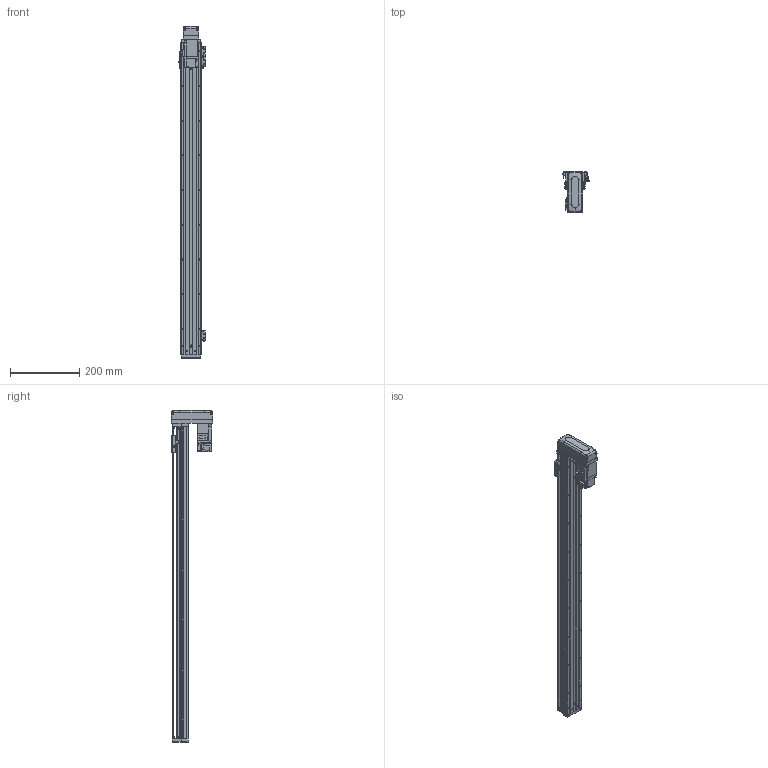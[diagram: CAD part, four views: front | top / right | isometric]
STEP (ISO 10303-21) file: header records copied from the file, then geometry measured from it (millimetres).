
FILE_DESCRIPTION (( 'STEP AP203' ), '1' );
FILE_NAME ('KTHA50-800-BM-M10-C4L.step', '2022-03-19T07:12:53', ( '微软用户' ), ( '微软中国' ), 'SwSTEP 2.0', 'SolidWorks 2020', '' );
FILE_SCHEMA (( 'CONFIG_CONTROL_DESIGN' ));
Length unit declared in the file: millimetre
Products named in the file (18): GBT 70.3-M3℅6; KTHA50-004; GBT77-2000 M3×3; HG-KR13（三菱）; KTHA50-005; GBT 70.1-M3℅6; CTHA50-015-2_CTHA60-015-2; GB¨uT 70.2-M3¡Á6_M3¡Á6; CTHA60-017; CTHA60-033; EE_SX911P_R; GBT 70.1-M4×12; GBT 70.1-M3×15; CTHA60-016; KTHA50-001_900; KTHA50-800-BM-M10-C4L; CTHA60-021; KTHA50-002
Assembly tree (53 placements, depth 2):
  KTHA50-800-BM-M10-C4L
    KTHA50-001_900
    KTHA50-002
    KTHA50-004
    KTHA50-005
    GB¨uT 70.2-M3¡Á6_M3¡Á6  x6
    EE_SX911P_R  x3
    GBT77-2000 M3×3  x6
    GBT 70.1-M3℅6  x6
    CTHA60-017  x3
    GBT 70.1-M4×12  x10
    CTHA60-016  x2
    CTHA60-021  x2
    GBT 70.3-M3℅6  x4
    HG-KR13（三菱）
    CTHA50-015-2_CTHA60-015-2
    CTHA60-033
    GBT 70.1-M3×15  x4
Bounding box: 75.22 x 120 x 957 mm (x, y, z)
Volume: 1816490.6 mm3; surface area: 443920.2 mm2
Topology: 56 solids, 56 shells, 2343 faces, 5575 edges, 3424 vertices
Faces by surface type: plane 1312, cylinder 574, cone 315, torus 100, bspline 26, sphere 16
Entity records: 40819 total; most frequent: CARTESIAN_POINT 7682, DIRECTION 6405, ORIENTED_EDGE 6162, EDGE_CURVE 3081, AXIS2_PLACEMENT_3D 2163, LINE 2079, VECTOR 2079, VERTEX_POINT 1938
